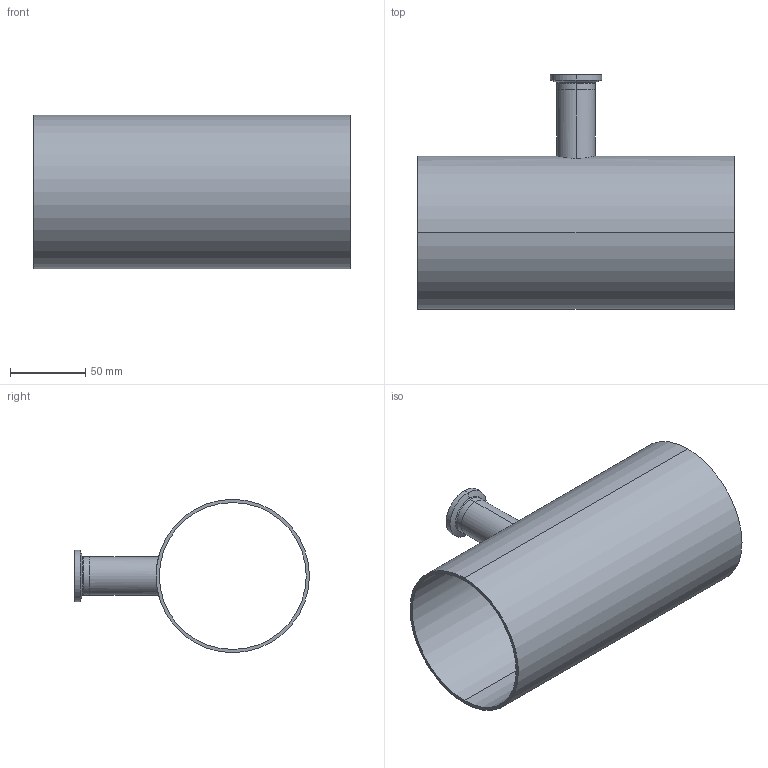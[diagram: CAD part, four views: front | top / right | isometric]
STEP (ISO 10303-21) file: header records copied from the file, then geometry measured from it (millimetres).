
FILE_DESCRIPTION (( 'STEP AP214' ), '1' );
FILE_NAME ('TE7RWWC6L4.0x1.0-..Type A.STEP', '2016-05-23T09:32:16', ( 'eran' ), ( '' ), 'SwSTEP 2.0', 'SolidWorks 2016', '' );
FILE_SCHEMA (( 'AUTOMOTIVE_DESIGN' ));
Length unit declared in the file: millimetre
Products named in the file (1): TE7RWWC6L4.0x1.0-..Type A
Bounding box: 209.6 x 155.6 x 101.6 mm (x, y, z)
Volume: 145430.8 mm3; surface area: 141059.5 mm2
Topology: 2 solids, 2 shells, 34 faces, 82 edges, 54 vertices
Faces by surface type: cylinder 16, bspline 8, plane 6, cone 4
Entity records: 1359 total; most frequent: CARTESIAN_POINT 503, DIRECTION 182, ORIENTED_EDGE 164, EDGE_CURVE 82, AXIS2_PLACEMENT_3D 81, VERTEX_POINT 54, CIRCLE 54, EDGE_LOOP 42
